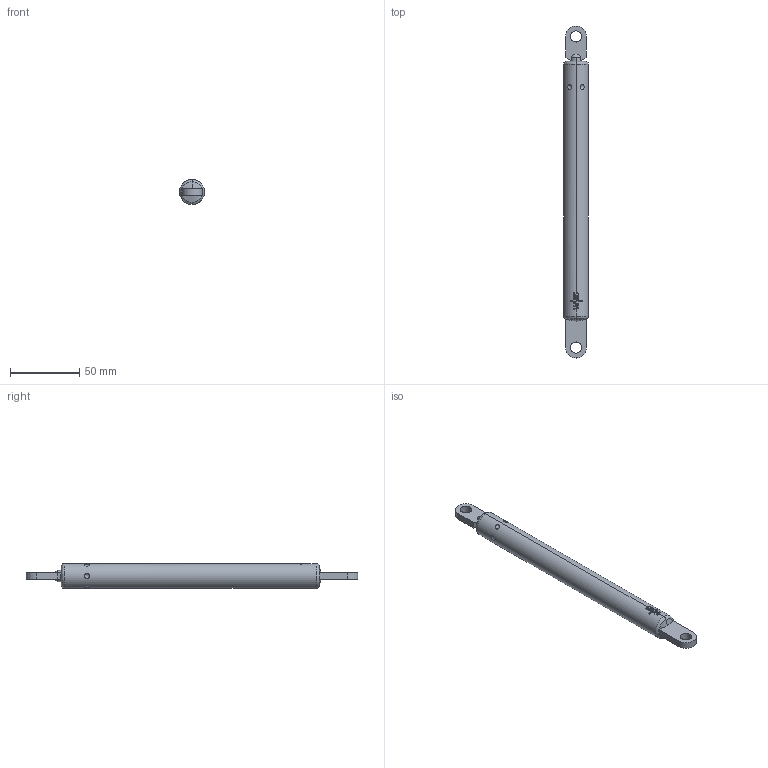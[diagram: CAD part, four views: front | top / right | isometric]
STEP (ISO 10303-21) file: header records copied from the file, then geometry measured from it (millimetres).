
FILE_DESCRIPTION (( 'STEP AP203' ), '1' );
FILE_NAME ('084.527.011.STEP', '2018-03-09T14:28:22', ( '' ), ( '' ), 'SwSTEP 2.0', 'SolidWorks 2016', '' );
FILE_SCHEMA (( 'CONFIG_CONTROL_DESIGN' ));
Length unit declared in the file: millimetre
Products named in the file (3): 084.529.011-B; 084.527.011; 084.527.011-A
Assembly tree (2 placements, depth 2):
  084.527.011
    084.527.011-A
    084.529.011-B
Bounding box: 18 x 239.5 x 18 mm (x, y, z)
Volume: 50593.2 mm3; surface area: 20376.3 mm2
Topology: 2 solids, 2 shells, 117 faces, 313 edges, 211 vertices
Faces by surface type: plane 53, cylinder 49, bspline 12, cone 3
Entity records: 4726 total; most frequent: CARTESIAN_POINT 1727, ORIENTED_EDGE 626, DIRECTION 479, EDGE_CURVE 313, VERTEX_POINT 211, AXIS2_PLACEMENT_3D 175, EDGE_LOOP 132, LINE 129
